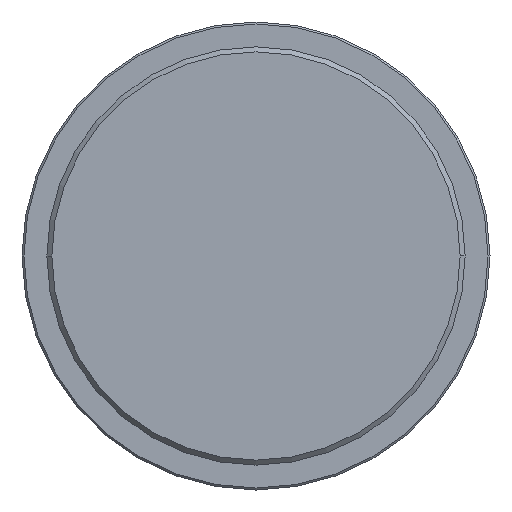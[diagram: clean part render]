
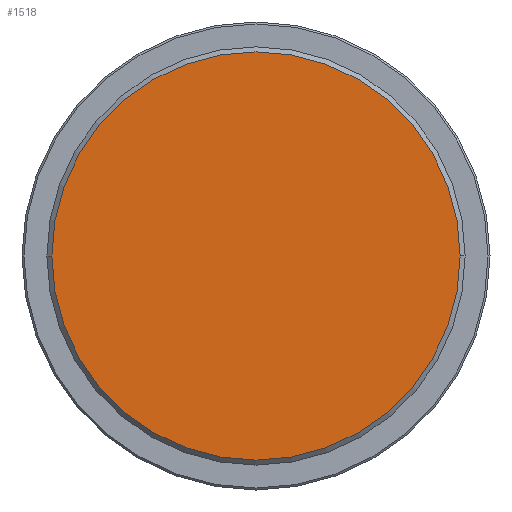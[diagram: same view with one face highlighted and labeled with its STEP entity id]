
A CAD part, left-side view. The second image highlights one B-rep face of the part: STEP entity #1518.
In plain terms, the highlighted planar face has unit normal (-1, 0, 0).
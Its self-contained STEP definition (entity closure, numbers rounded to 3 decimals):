
#378 = CIRCLE ( 'NONE', #1318, 20.5 ) ;
#385 = CARTESIAN_POINT ( 'NONE',  ( -65., -20.5, 0. ) ) ;
#414 = CARTESIAN_POINT ( 'NONE',  ( -65., 20.5, 0. ) ) ;
#682 = DIRECTION ( 'NONE',  ( -1., 0., 0. ) ) ;
#683 = CARTESIAN_POINT ( 'NONE',  ( -65., 21., 0. ) ) ;
#684 = AXIS2_PLACEMENT_3D ( 'NONE', #683, #682, #745 ) ;
#685 = PLANE ( 'NONE',  #684 ) ;
#686 = FACE_OUTER_BOUND ( 'NONE', #1534, .T. ) ;
#745 = DIRECTION ( 'NONE',  ( 0., -1., 0. ) ) ;
#762 = DIRECTION ( 'NONE',  ( 0., -1., 0. ) ) ;
#763 = DIRECTION ( 'NONE',  ( -1., 0., 0. ) ) ;
#764 = CARTESIAN_POINT ( 'NONE',  ( -65., 0., 0. ) ) ;
#765 = AXIS2_PLACEMENT_3D ( 'NONE', #764, #763, #762 ) ;
#771 = CIRCLE ( 'NONE', #765, 20.5 ) ;
#1318 = AXIS2_PLACEMENT_3D ( 'NONE', #1330, #1329, #1341 ) ;
#1329 = DIRECTION ( 'NONE',  ( -1., 0., 0. ) ) ;
#1330 = CARTESIAN_POINT ( 'NONE',  ( -65., 0., 0. ) ) ;
#1341 = DIRECTION ( 'NONE',  ( 0., -1., 0. ) ) ;
#1361 = VERTEX_POINT ( 'NONE', #385 ) ;
#1364 = EDGE_CURVE ( 'NONE', #1361, #1376, #378, .T. ) ;
#1376 = VERTEX_POINT ( 'NONE', #414 ) ;
#1518 = ADVANCED_FACE ( 'NONE', ( #686 ), #685, .T. ) ;
#1532 = ORIENTED_EDGE ( 'NONE', *, *, #1364, .T. ) ;
#1534 = EDGE_LOOP ( 'NONE', ( #1535, #1532 ) ) ;
#1535 = ORIENTED_EDGE ( 'NONE', *, *, #1536, .T. ) ;
#1536 = EDGE_CURVE ( 'NONE', #1376, #1361, #771, .T. ) ;
